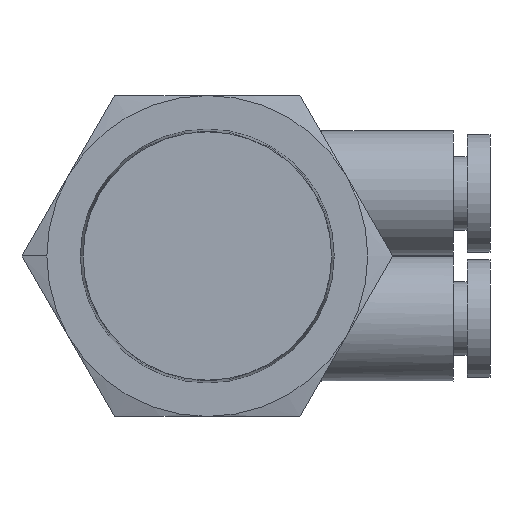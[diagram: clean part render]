
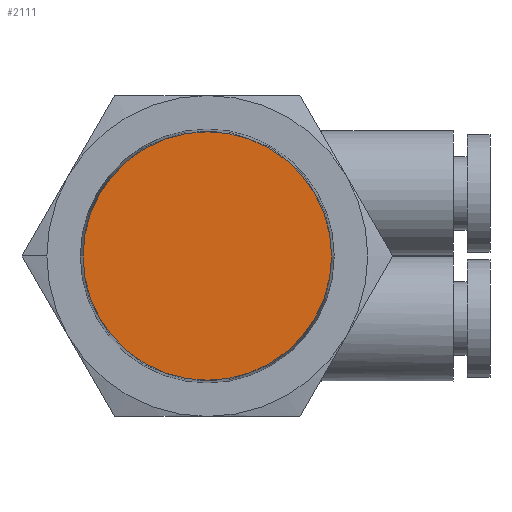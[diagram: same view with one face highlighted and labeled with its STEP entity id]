
A CAD part, front view. The second image highlights one B-rep face of the part: STEP entity #2111.
In plain terms, the highlighted planar face has unit normal (0, -1, 0).
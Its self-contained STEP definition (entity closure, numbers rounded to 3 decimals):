
#244 = AXIS2_PLACEMENT_3D ( 'NONE', #912, #1631, #4312 ) ;
#558 = FACE_OUTER_BOUND ( 'NONE', #3994, .T. ) ;
#593 = CIRCLE ( 'NONE', #3867, 8.131 ) ;
#912 = CARTESIAN_POINT ( 'NONE',  ( 8.131, -7.6, 0. ) ) ;
#1210 = EDGE_CURVE ( 'NONE', #2916, #4230, #2413, .T. ) ;
#1441 = CARTESIAN_POINT ( 'NONE',  ( 8.131, -7.6, 0. ) ) ;
#1559 = AXIS2_PLACEMENT_3D ( 'NONE', #3275, #3522, #2872 ) ;
#1631 = DIRECTION ( 'NONE',  ( 0., 1., 0. ) ) ;
#1833 = ORIENTED_EDGE ( 'NONE', *, *, #2030, .T. ) ;
#2030 = EDGE_CURVE ( 'NONE', #4230, #2916, #593, .T. ) ;
#2111 = ADVANCED_FACE ( 'NONE', ( #558 ), #2642, .F. ) ;
#2413 = CIRCLE ( 'NONE', #1559, 8.131 ) ;
#2642 = PLANE ( 'NONE',  #244 ) ;
#2872 = DIRECTION ( 'NONE',  ( 1., 0., 0. ) ) ;
#2916 = VERTEX_POINT ( 'NONE', #1441 ) ;
#3222 = CARTESIAN_POINT ( 'NONE',  ( 0., -7.6, 0. ) ) ;
#3275 = CARTESIAN_POINT ( 'NONE',  ( 0., -7.6, 0. ) ) ;
#3508 = DIRECTION ( 'NONE',  ( 1., 0., 0. ) ) ;
#3522 = DIRECTION ( 'NONE',  ( 0., -1., 0. ) ) ;
#3856 = DIRECTION ( 'NONE',  ( 0., -1., 0. ) ) ;
#3867 = AXIS2_PLACEMENT_3D ( 'NONE', #3222, #3856, #3508 ) ;
#3994 = EDGE_LOOP ( 'NONE', ( #1833, #4328 ) ) ;
#4230 = VERTEX_POINT ( 'NONE', #4303 ) ;
#4303 = CARTESIAN_POINT ( 'NONE',  ( -8.131, -7.6, 0. ) ) ;
#4312 = DIRECTION ( 'NONE',  ( 1., 0., 0. ) ) ;
#4328 = ORIENTED_EDGE ( 'NONE', *, *, #1210, .T. ) ;
